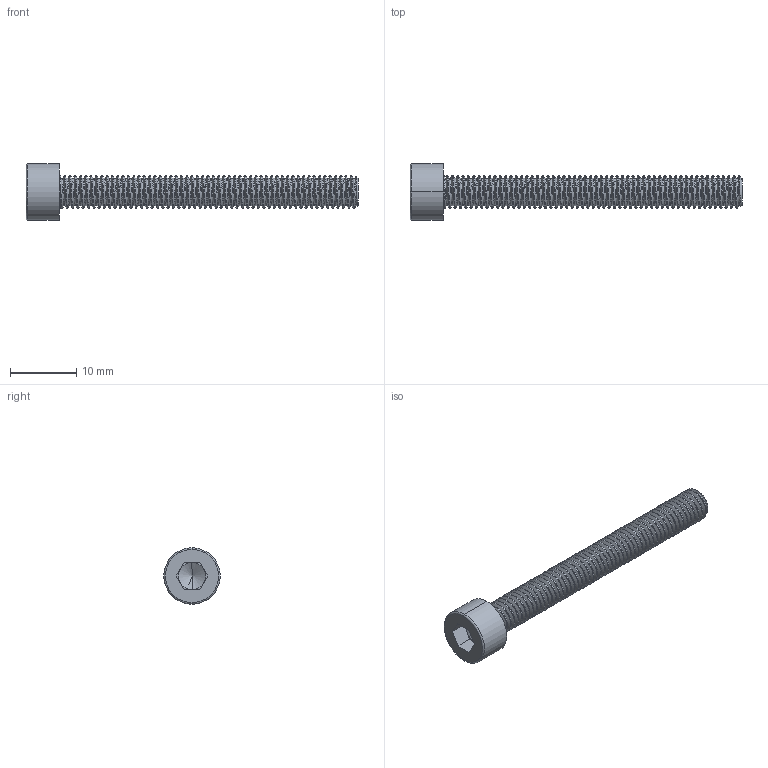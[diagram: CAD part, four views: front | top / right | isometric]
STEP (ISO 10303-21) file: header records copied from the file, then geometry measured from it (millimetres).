
FILE_DESCRIPTION (( 'STEP AP203' ), '1' );
FILE_NAME ('Ì5õ45_DIN912.STEP', '2025-11-19T05:48:27', ( '' ), ( '' ), 'SwSTEP 2.0', 'SolidWorks 2022', '' );
FILE_SCHEMA (( 'CONFIG_CONTROL_DESIGN' ));
Length unit declared in the file: millimetre
Products named in the file (1): М5х45_DIN912
Bounding box: 50 x 8.5 x 8.5 mm (x, y, z)
Volume: 963.5 mm3; surface area: 1324.8 mm2
Topology: 1 solids, 1 shells, 142 faces, 404 edges, 264 vertices
Faces by surface type: cylinder 114, plane 16, cone 4, torus 4, bspline 4
Entity records: 12150 total; most frequent: CARTESIAN_POINT 9083, ORIENTED_EDGE 804, DIRECTION 467, EDGE_CURVE 402, VERTEX_POINT 264, AXIS2_PLACEMENT_3D 161, LINE 145, VECTOR 145
